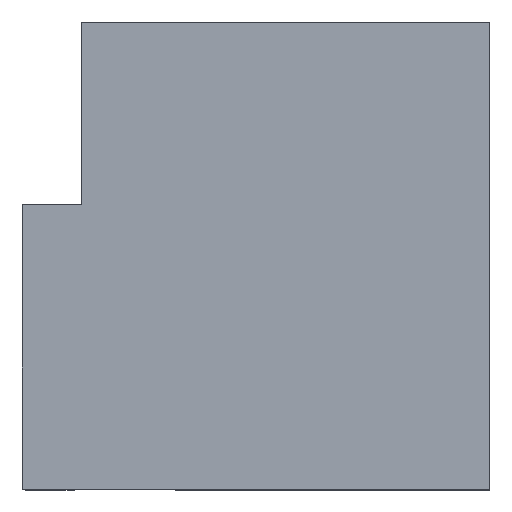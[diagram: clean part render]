
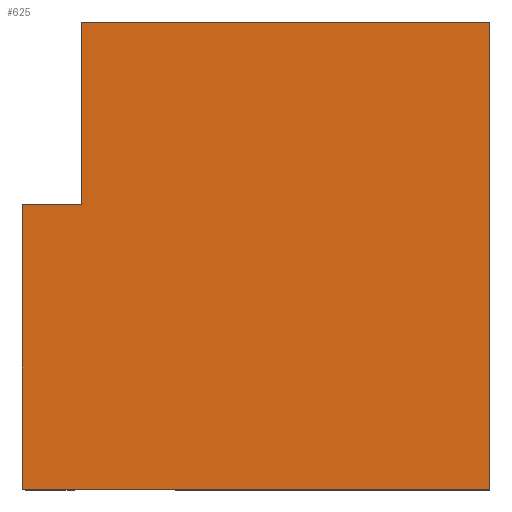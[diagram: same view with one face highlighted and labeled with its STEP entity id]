
A CAD part, top view. The second image highlights one B-rep face of the part: STEP entity #625.
In plain terms, the highlighted planar face has unit normal (0, 0, 1).
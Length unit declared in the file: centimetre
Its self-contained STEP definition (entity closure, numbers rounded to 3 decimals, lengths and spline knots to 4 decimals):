
#12 = CARTESIAN_POINT ( 'NONE',  ( 126.555, 609.4351, 1000. ) ) ;
#14 = ORIENTED_EDGE ( 'NONE', *, *, #306, .F. ) ;
#28 = CARTESIAN_POINT ( 'NONE',  ( 126.555, 609.4351, 1000. ) ) ;
#35 = LINE ( 'NONE', #1021, #1189 ) ;
#74 = CARTESIAN_POINT ( 'NONE',  ( 0., 609.4351, 1000. ) ) ;
#118 = DIRECTION ( 'NONE',  ( 1., 0., 0. ) ) ;
#145 = DIRECTION ( 'NONE',  ( 0., -1., 0. ) ) ;
#186 = CARTESIAN_POINT ( 'NONE',  ( 1000., 1000., 1000. ) ) ;
#218 = CARTESIAN_POINT ( 'NONE',  ( 0., 0., 1000. ) ) ;
#235 = AXIS2_PLACEMENT_3D ( 'NONE', #1233, #348, #861 ) ;
#247 = VERTEX_POINT ( 'NONE', #1052 ) ;
#250 = EDGE_CURVE ( 'NONE', #293, #999, #862, .T. ) ;
#262 = FACE_OUTER_BOUND ( 'NONE', #274, .T. ) ;
#263 = CARTESIAN_POINT ( 'NONE',  ( 1000., 0., 1000. ) ) ;
#274 = EDGE_LOOP ( 'NONE', ( #713, #14, #1140, #1029, #864, #784 ) ) ;
#293 = VERTEX_POINT ( 'NONE', #263 ) ;
#306 = EDGE_CURVE ( 'NONE', #906, #733, #606, .T. ) ;
#348 = DIRECTION ( 'NONE',  ( 0., 0., 1. ) ) ;
#355 = EDGE_CURVE ( 'NONE', #733, #247, #512, .T. ) ;
#375 = DIRECTION ( 'NONE',  ( 0., 1., 0. ) ) ;
#407 = DIRECTION ( 'NONE',  ( 0., 1., 0. ) ) ;
#487 = EDGE_CURVE ( 'NONE', #999, #247, #1109, .T. ) ;
#512 = LINE ( 'NONE', #12, #984 ) ;
#548 = VECTOR ( 'NONE', #118, 100. ) ;
#606 = LINE ( 'NONE', #1196, #1083 ) ;
#616 = LINE ( 'NONE', #218, #548 ) ;
#625 = ADVANCED_FACE ( 'NONE', ( #262 ), #1046, .T. ) ;
#713 = ORIENTED_EDGE ( 'NONE', *, *, #355, .F. ) ;
#730 = VECTOR ( 'NONE', #375, 100. ) ;
#733 = VERTEX_POINT ( 'NONE', #28 ) ;
#741 = CARTESIAN_POINT ( 'NONE',  ( 0., 1000., 1000. ) ) ;
#784 = ORIENTED_EDGE ( 'NONE', *, *, #487, .T. ) ;
#861 = DIRECTION ( 'NONE',  ( 1., 0., 0. ) ) ;
#862 = LINE ( 'NONE', #186, #730 ) ;
#864 = ORIENTED_EDGE ( 'NONE', *, *, #250, .T. ) ;
#896 = VECTOR ( 'NONE', #1133, 100. ) ;
#906 = VERTEX_POINT ( 'NONE', #74 ) ;
#912 = CARTESIAN_POINT ( 'NONE',  ( 0., 0., 1000. ) ) ;
#984 = VECTOR ( 'NONE', #407, 100. ) ;
#999 = VERTEX_POINT ( 'NONE', #1178 ) ;
#1021 = CARTESIAN_POINT ( 'NONE',  ( 0., 1000., 1000. ) ) ;
#1029 = ORIENTED_EDGE ( 'NONE', *, *, #1054, .T. ) ;
#1046 = PLANE ( 'NONE',  #235 ) ;
#1052 = CARTESIAN_POINT ( 'NONE',  ( 126.555, 1000., 1000. ) ) ;
#1054 = EDGE_CURVE ( 'NONE', #1073, #293, #616, .T. ) ;
#1073 = VERTEX_POINT ( 'NONE', #912 ) ;
#1077 = DIRECTION ( 'NONE',  ( 1., 0., 0. ) ) ;
#1083 = VECTOR ( 'NONE', #1077, 100. ) ;
#1109 = LINE ( 'NONE', #741, #896 ) ;
#1133 = DIRECTION ( 'NONE',  ( -1., 0., 0. ) ) ;
#1140 = ORIENTED_EDGE ( 'NONE', *, *, #1194, .T. ) ;
#1178 = CARTESIAN_POINT ( 'NONE',  ( 1000., 1000., 1000. ) ) ;
#1189 = VECTOR ( 'NONE', #145, 100. ) ;
#1194 = EDGE_CURVE ( 'NONE', #906, #1073, #35, .T. ) ;
#1196 = CARTESIAN_POINT ( 'NONE',  ( 0., 609.4351, 1000. ) ) ;
#1233 = CARTESIAN_POINT ( 'NONE',  ( 0., 0., 1000. ) ) ;
